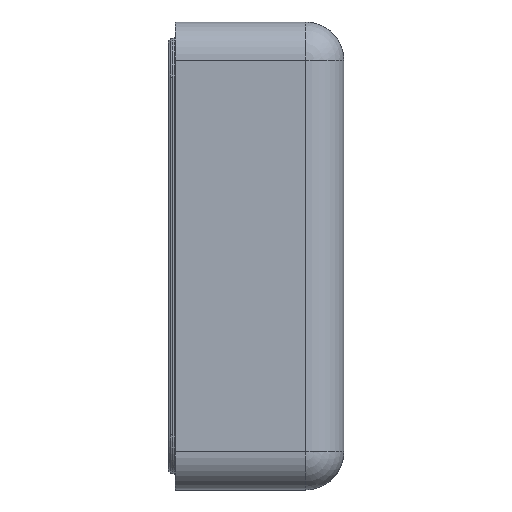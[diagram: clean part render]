
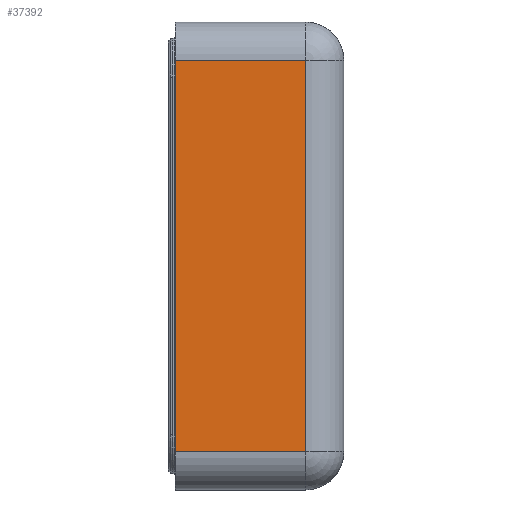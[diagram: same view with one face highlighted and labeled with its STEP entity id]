
A CAD part, left-side view. The second image highlights one B-rep face of the part: STEP entity #37392.
In plain terms, the highlighted planar face has unit normal (-1, 0, 0).
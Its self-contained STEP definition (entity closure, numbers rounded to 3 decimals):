
#61 = ORIENTED_EDGE ( 'NONE', *, *, #102950, .F. ) ;
#1186 = CARTESIAN_POINT ( 'NONE',  ( -14.404, 0., 6.373 ) ) ;
#2523 = DIRECTION ( 'NONE',  ( 0., 0., 1. ) ) ;
#5616 = CARTESIAN_POINT ( 'NONE',  ( -14.404, -4.25, -6.373 ) ) ;
#8410 = VERTEX_POINT ( 'NONE', #5616 ) ;
#11370 = DIRECTION ( 'NONE',  ( 0., 0., 1. ) ) ;
#11511 = VECTOR ( 'NONE', #11370, 39.37 ) ;
#14755 = LINE ( 'NONE', #95924, #37489 ) ;
#17377 = DIRECTION ( 'NONE',  ( 0., 0., -1. ) ) ;
#25564 = FACE_OUTER_BOUND ( 'NONE', #88706, .T. ) ;
#26105 = PLANE ( 'NONE',  #101907 ) ;
#26290 = DIRECTION ( 'NONE',  ( 0., 1., 0. ) ) ;
#32277 = ORIENTED_EDGE ( 'NONE', *, *, #97053, .F. ) ;
#33274 = VERTEX_POINT ( 'NONE', #84773 ) ;
#37392 = ADVANCED_FACE ( 'NONE', ( #25564 ), #26105, .F. ) ;
#37489 = VECTOR ( 'NONE', #56479, 39.37 ) ;
#40442 = DIRECTION ( 'NONE',  ( 1., 0., 0. ) ) ;
#42805 = LINE ( 'NONE', #68021, #60791 ) ;
#43658 = CARTESIAN_POINT ( 'NONE',  ( -14.404, 0., -6.373 ) ) ;
#46212 = ORIENTED_EDGE ( 'NONE', *, *, #58877, .T. ) ;
#53081 = CARTESIAN_POINT ( 'NONE',  ( -14.404, -4.25, 6.373 ) ) ;
#56479 = DIRECTION ( 'NONE',  ( 0., 1., 0. ) ) ;
#58877 = EDGE_CURVE ( 'NONE', #61990, #76560, #42805, .T. ) ;
#59094 = CARTESIAN_POINT ( 'NONE',  ( -14.404, -5.5, 6.373 ) ) ;
#59209 = CARTESIAN_POINT ( 'NONE',  ( -14.404, -4.25, 6.373 ) ) ;
#60791 = VECTOR ( 'NONE', #26290, 39.37 ) ;
#61990 = VERTEX_POINT ( 'NONE', #59209 ) ;
#68021 = CARTESIAN_POINT ( 'NONE',  ( -14.404, -5.5, 6.373 ) ) ;
#73901 = ORIENTED_EDGE ( 'NONE', *, *, #83402, .T. ) ;
#76560 = VERTEX_POINT ( 'NONE', #1186 ) ;
#79108 = VECTOR ( 'NONE', #2523, 39.37 ) ;
#83402 = EDGE_CURVE ( 'NONE', #8410, #61990, #102925, .T. ) ;
#84773 = CARTESIAN_POINT ( 'NONE',  ( -14.404, 0., -6.373 ) ) ;
#88706 = EDGE_LOOP ( 'NONE', ( #46212, #32277, #61, #73901 ) ) ;
#95924 = CARTESIAN_POINT ( 'NONE',  ( -14.404, -5.5, -6.373 ) ) ;
#97053 = EDGE_CURVE ( 'NONE', #33274, #76560, #101756, .T. ) ;
#101756 = LINE ( 'NONE', #43658, #79108 ) ;
#101907 = AXIS2_PLACEMENT_3D ( 'NONE', #59094, #40442, #17377 ) ;
#102925 = LINE ( 'NONE', #53081, #11511 ) ;
#102950 = EDGE_CURVE ( 'NONE', #8410, #33274, #14755, .T. ) ;
